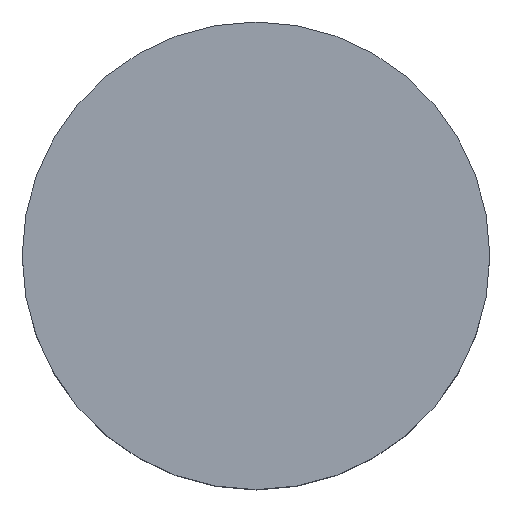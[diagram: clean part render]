
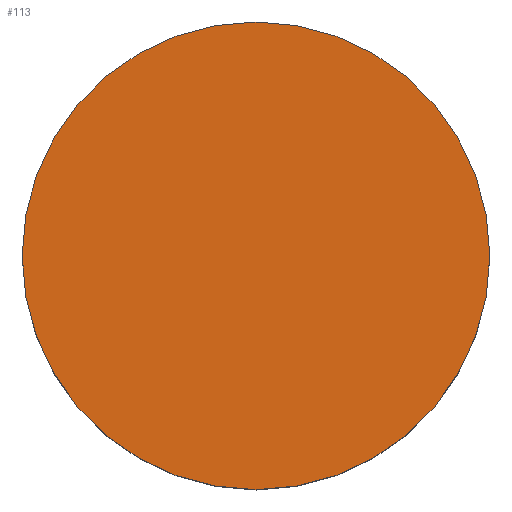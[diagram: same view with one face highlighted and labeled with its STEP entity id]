
A CAD part, top view. The second image highlights one B-rep face of the part: STEP entity #113.
In plain terms, the highlighted planar face has unit normal (0, 0, 1).
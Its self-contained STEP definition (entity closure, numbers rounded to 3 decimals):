
#21 = EDGE_CURVE('',#22,#22,#24,.T.);
#22 = VERTEX_POINT('',#23);
#23 = CARTESIAN_POINT('',(17.929,60.7,21.95));
#24 = SURFACE_CURVE('',#25,(#30,#42),.PCURVE_S1.);
#25 = CIRCLE('',#26,1.9);
#26 = AXIS2_PLACEMENT_3D('',#27,#28,#29);
#27 = CARTESIAN_POINT('',(19.829,60.7,21.95));
#28 = DIRECTION('',(0.,0.,-1.));
#29 = DIRECTION('',(-1.,-0.,-0.));
#30 = PCURVE('',#31,#36);
#31 = CYLINDRICAL_SURFACE('',#32,1.9);
#32 = AXIS2_PLACEMENT_3D('',#33,#34,#35);
#33 = CARTESIAN_POINT('',(19.829,60.7,20.35));
#34 = DIRECTION('',(-0.,-0.,1.));
#35 = DIRECTION('',(-1.,-0.,-0.));
#36 = DEFINITIONAL_REPRESENTATION('',(#37),#41);
#37 = LINE('',#38,#39);
#38 = CARTESIAN_POINT('',(-0.,1.6));
#39 = VECTOR('',#40,1.);
#40 = DIRECTION('',(-1.,0.));
#41 = ( GEOMETRIC_REPRESENTATION_CONTEXT(2) 
PARAMETRIC_REPRESENTATION_CONTEXT() REPRESENTATION_CONTEXT('2D SPACE',''
  ) );
#42 = PCURVE('',#43,#48);
#43 = PLANE('',#44);
#44 = AXIS2_PLACEMENT_3D('',#45,#46,#47);
#45 = CARTESIAN_POINT('',(19.829,60.7,21.95));
#46 = DIRECTION('',(-0.,-0.,1.));
#47 = DIRECTION('',(1.,0.,0.));
#48 = DEFINITIONAL_REPRESENTATION('',(#49),#57);
#49 = ( BOUNDED_CURVE() B_SPLINE_CURVE(2,(#50,#51,#52,#53,#54,#55,#56),
.UNSPECIFIED.,.T.,.F.) B_SPLINE_CURVE_WITH_KNOTS((1,2,2,2,2,1),(
    -2.094,0.,2.094,4.189,6.283,
8.378),.UNSPECIFIED.) CURVE() GEOMETRIC_REPRESENTATION_ITEM() 
RATIONAL_B_SPLINE_CURVE((1.,0.5,1.,0.5,1.,0.5,1.)) REPRESENTATION_ITEM(
  '') );
#50 = CARTESIAN_POINT('',(-1.9,0.));
#51 = CARTESIAN_POINT('',(-1.9,3.291));
#52 = CARTESIAN_POINT('',(0.95,1.645));
#53 = CARTESIAN_POINT('',(3.8,0.));
#54 = CARTESIAN_POINT('',(0.95,-1.645));
#55 = CARTESIAN_POINT('',(-1.9,-3.291));
#56 = CARTESIAN_POINT('',(-1.9,0.));
#57 = ( GEOMETRIC_REPRESENTATION_CONTEXT(2) 
PARAMETRIC_REPRESENTATION_CONTEXT() REPRESENTATION_CONTEXT('2D SPACE',''
  ) );
#113 = ADVANCED_FACE('',(#114),#43,.T.);
#114 = FACE_BOUND('',#115,.F.);
#115 = EDGE_LOOP('',(#116));
#116 = ORIENTED_EDGE('',*,*,#21,.T.);
